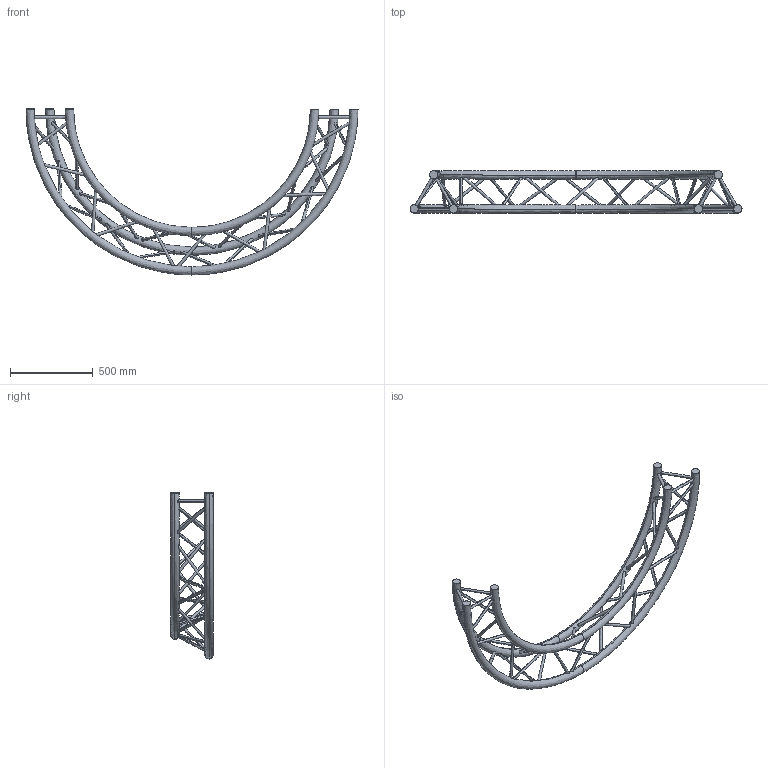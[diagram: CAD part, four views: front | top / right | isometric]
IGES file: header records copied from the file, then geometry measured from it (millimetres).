
Start section: SolidWorks IGES file using analytic representation for surfaces
Global section: file name: K:\BIBLIO\asd_biblio\SX290\Cercles\SXC29200PH\SXC29200PH.IGS; native system: SolidWorks 2009; preprocessor: SolidWorks 2009; author: des3; date: 091021.102551; units: millimetre
Bounding box: 2000 x 255.25 x 1000 mm (x, y, z)
Surface area: 1739950.9 mm2 (no closed solid volume)
Topology: 0 solids, 0 shells, 96 faces, 6321 edges, 6321 vertices
Faces by surface type: revolution 78, bspline 18
